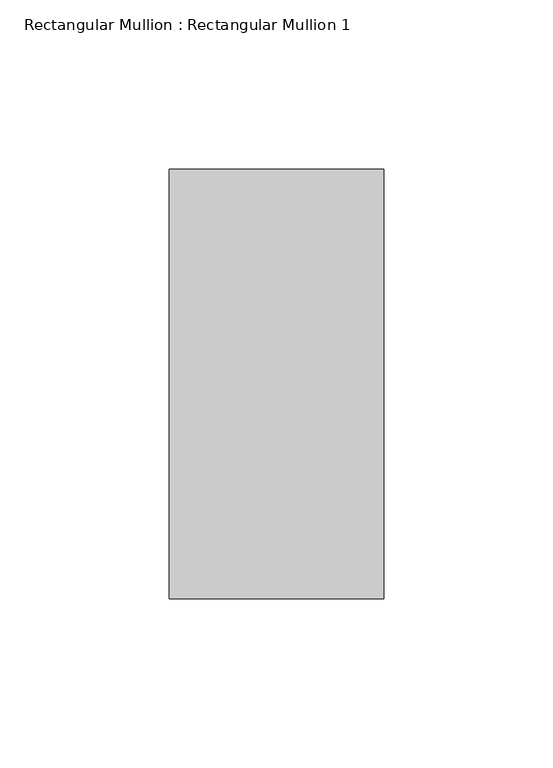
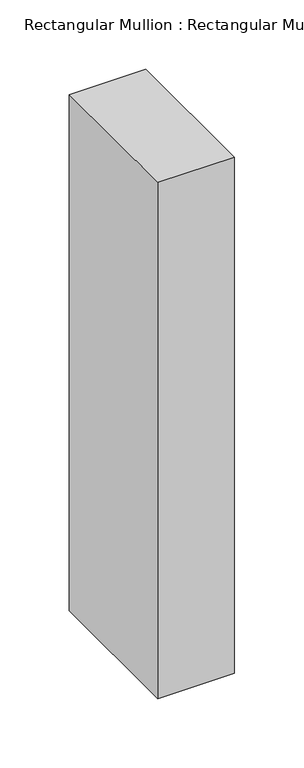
"""IFC4 building model written with IfcOpenShell, lengths in millimetres: member geometry, Rectangular Mullion : Rectangular Mullion 1."""

from ifc_helpers import new_model, si_unit, frame, origin, place, context, project, spatial, polyline, outline, extrude, source, transform, mapped, element, save


def rectangular_mullion_rectangular_mullion_1_4e56fbd5(model_context):
    return source(origin(), model_context, "Body", "SweptSolid", [
        extrude(outline(polyline([(0.0, 63.5), (0.0, -63.5), (-63.5, -63.5), (-63.5, 63.5), (0.0, 63.5)])), frame((0.0, 0.0, -453.4973635), z_axis=(0.0, 0.0, 1.0), x_axis=(1.0, 0.0, 0.0)), (0.0, 0.0, 1.0), 453.4973635),
    ])


if __name__ == "__main__":
    model = new_model("IFC4")
    model_context = context("Model", 3, world=origin())
    ifc_project = project(units=[si_unit("LENGTHUNIT", "METRE", prefix="MILLI")], contexts=[model_context])
    site = spatial("IfcSite", under=ifc_project)
    building = spatial("IfcBuilding", under=site)
    placement = place(None, origin())
    rectangular_mullion_rectangular_mullion_1_shape = rectangular_mullion_rectangular_mullion_1_4e56fbd5(model_context)
    element("IfcMember", 1, ObjectType="Rectangular Mullion : Rectangular Mullion 1", at=placement, inside=building, context=model_context, shape_type="MappedRepresentation", body=[
        mapped(rectangular_mullion_rectangular_mullion_1_shape, transform((0.0, 0.0, 0.0), x_axis=(1.0, 0.0, 0.0), y_axis=(0.0, 1.0, 0.0), z_axis=(0.0, 0.0, 1.0))),
    ])
    save(model, "model.ifc")
